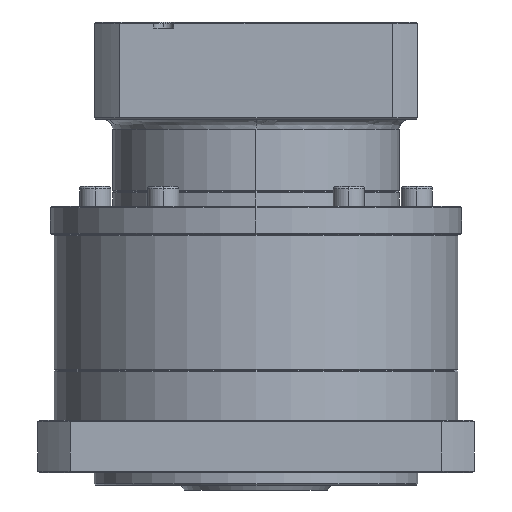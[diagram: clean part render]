
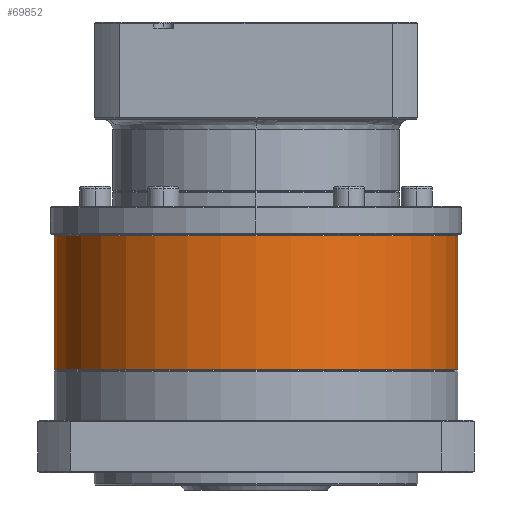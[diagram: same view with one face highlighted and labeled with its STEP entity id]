
A CAD part, left-side view. The second image highlights one B-rep face of the part: STEP entity #69852.
In plain terms, the highlighted cylindrical face has radius 81 mm (diameter 162 mm), a partial arc.
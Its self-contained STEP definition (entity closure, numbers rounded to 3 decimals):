
#948 = CIRCLE ( 'NONE', #27023, 81. ) ;
#1258 = CARTESIAN_POINT ( 'NONE',  ( -156.048, 138.691, -155.489 ) ) ;
#4399 = CARTESIAN_POINT ( 'NONE',  ( -156.048, -23.309, -101.989 ) ) ;
#6172 = AXIS2_PLACEMENT_3D ( 'NONE', #81801, #7616, #58092 ) ;
#7616 = DIRECTION ( 'NONE',  ( 0., 0., 1. ) ) ;
#9753 = EDGE_LOOP ( 'NONE', ( #64939, #45002, #55235, #53536, #41889 ) ) ;
#14300 = CARTESIAN_POINT ( 'NONE',  ( -156.048, 57.691, -101.989 ) ) ;
#17751 = VERTEX_POINT ( 'NONE', #69599 ) ;
#19020 = VECTOR ( 'NONE', #95319, 1000. ) ;
#21460 = CARTESIAN_POINT ( 'NONE',  ( -156.048, 138.691, -101.489 ) ) ;
#27023 = AXIS2_PLACEMENT_3D ( 'NONE', #14300, #54444, #46941 ) ;
#29007 = CIRCLE ( 'NONE', #104781, 81. ) ;
#29319 = DIRECTION ( 'NONE',  ( 0., 0., -1. ) ) ;
#36956 = DIRECTION ( 'NONE',  ( 1., 0., 0. ) ) ;
#37601 = DIRECTION ( 'NONE',  ( 0., 1., 0. ) ) ;
#38282 = CARTESIAN_POINT ( 'NONE',  ( -237.048, 57.691, -101.989 ) ) ;
#41889 = ORIENTED_EDGE ( 'NONE', *, *, #45003, .T. ) ;
#45002 = ORIENTED_EDGE ( 'NONE', *, *, #63563, .F. ) ;
#45003 = EDGE_CURVE ( 'NONE', #90054, #105300, #65406, .T. ) ;
#45795 = CARTESIAN_POINT ( 'NONE',  ( -156.048, 57.691, -101.489 ) ) ;
#46941 = DIRECTION ( 'NONE',  ( 1., 0., 0. ) ) ;
#48163 = VERTEX_POINT ( 'NONE', #4399 ) ;
#51967 = VECTOR ( 'NONE', #59092, 1000. ) ;
#53536 = ORIENTED_EDGE ( 'NONE', *, *, #56710, .T. ) ;
#54048 = DIRECTION ( 'NONE',  ( 0., 0., 1. ) ) ;
#54444 = DIRECTION ( 'NONE',  ( 0., 0., 1. ) ) ;
#54515 = LINE ( 'NONE', #100355, #51967 ) ;
#55235 = ORIENTED_EDGE ( 'NONE', *, *, #87769, .F. ) ;
#56710 = EDGE_CURVE ( 'NONE', #17751, #90054, #75520, .T. ) ;
#57430 = AXIS2_PLACEMENT_3D ( 'NONE', #45795, #29319, #37601 ) ;
#58092 = DIRECTION ( 'NONE',  ( 0., 1., 0. ) ) ;
#58201 = CARTESIAN_POINT ( 'NONE',  ( -156.048, -23.309, -155.489 ) ) ;
#59092 = DIRECTION ( 'NONE',  ( 0., 0., -1. ) ) ;
#60845 = EDGE_CURVE ( 'NONE', #48163, #105300, #54515, .T. ) ;
#63563 = EDGE_CURVE ( 'NONE', #75845, #48163, #29007, .T. ) ;
#64939 = ORIENTED_EDGE ( 'NONE', *, *, #60845, .F. ) ;
#65406 = CIRCLE ( 'NONE', #6172, 81. ) ;
#69599 = CARTESIAN_POINT ( 'NONE',  ( -156.048, 138.691, -101.989 ) ) ;
#69852 = ADVANCED_FACE ( 'NONE', ( #100101 ), #97436, .T. ) ;
#75520 = LINE ( 'NONE', #21460, #19020 ) ;
#75845 = VERTEX_POINT ( 'NONE', #38282 ) ;
#81801 = CARTESIAN_POINT ( 'NONE',  ( -156.048, 57.691, -155.489 ) ) ;
#86739 = CARTESIAN_POINT ( 'NONE',  ( -156.048, 57.691, -101.989 ) ) ;
#87769 = EDGE_CURVE ( 'NONE', #17751, #75845, #948, .T. ) ;
#90054 = VERTEX_POINT ( 'NONE', #1258 ) ;
#95319 = DIRECTION ( 'NONE',  ( 0., 0., -1. ) ) ;
#97436 = CYLINDRICAL_SURFACE ( 'NONE', #57430, 81. ) ;
#100101 = FACE_OUTER_BOUND ( 'NONE', #9753, .T. ) ;
#100355 = CARTESIAN_POINT ( 'NONE',  ( -156.048, -23.309, -101.489 ) ) ;
#104781 = AXIS2_PLACEMENT_3D ( 'NONE', #86739, #54048, #36956 ) ;
#105300 = VERTEX_POINT ( 'NONE', #58201 ) ;
